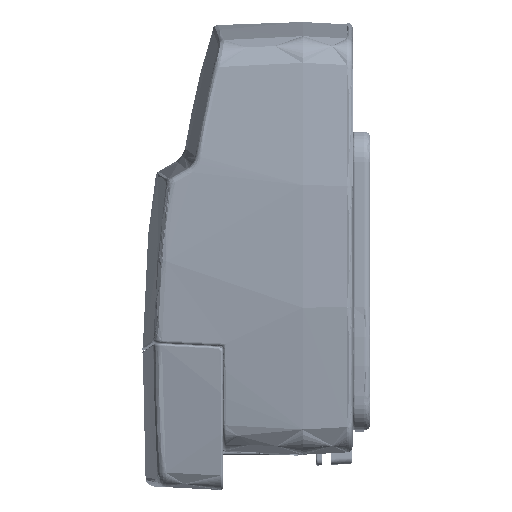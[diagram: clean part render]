
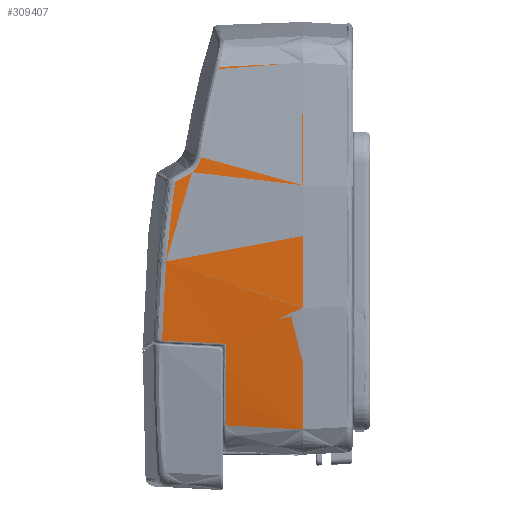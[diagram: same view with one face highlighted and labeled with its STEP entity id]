
A CAD part, left-side view. The second image highlights one B-rep face of the part: STEP entity #309407.
In plain terms, the highlighted conical face has half-angle 3 degrees and reference radius 207.307 mm.
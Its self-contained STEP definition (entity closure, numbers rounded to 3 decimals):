
#8200 = CARTESIAN_POINT ( 'NONE',  ( 58.773, 4.209, 39.133 ) ) ;
#11691 = ORIENTED_EDGE ( 'NONE', *, *, #128504, .T. ) ;
#12956 = CARTESIAN_POINT ( 'NONE',  ( 60.949, 17.161, -3.932 ) ) ;
#22583 = CARTESIAN_POINT ( 'NONE',  ( 60.923, 18.609, -2.507 ) ) ;
#34107 = EDGE_CURVE ( 'NONE', #182431, #72198, #79913, .T. ) ;
#35482 = CARTESIAN_POINT ( 'NONE',  ( 60.519, 0., -20.759 ) ) ;
#42749 = CARTESIAN_POINT ( 'NONE',  ( 60.928, 16.721, -5.016 ) ) ;
#46145 = CARTESIAN_POINT ( 'NONE',  ( 60.839, 20.93, -1.163 ) ) ;
#48586 = CARTESIAN_POINT ( 'NONE',  ( 58.958, 0., 39.359 ) ) ;
#48862 = VERTEX_POINT ( 'NONE', #74311 ) ;
#48944 = CARTESIAN_POINT ( 'NONE',  ( 60.181, 22.96, 20.472 ) ) ;
#55781 = VERTEX_POINT ( 'NONE', #160357 ) ;
#61848 = ORIENTED_EDGE ( 'NONE', *, *, #84595, .T. ) ;
#62193 = CARTESIAN_POINT ( 'NONE',  ( 58.588, 8.417, 38.908 ) ) ;
#62362 = AXIS2_PLACEMENT_3D ( 'NONE', #220143, #93523, #140796 ) ;
#70353 = CARTESIAN_POINT ( 'NONE',  ( 60.95, 17.496, -3.447 ) ) ;
#70480 = EDGE_CURVE ( 'NONE', #55781, #182431, #284575, .T. ) ;
#72198 = VERTEX_POINT ( 'NONE', #46145 ) ;
#72739 = ORIENTED_EDGE ( 'NONE', *, *, #277965, .T. ) ;
#73927 = CARTESIAN_POINT ( 'NONE',  ( 59.879, 13.644, -20.087 ) ) ;
#74311 = CARTESIAN_POINT ( 'NONE',  ( 59.74, 23.051, 24.771 ) ) ;
#74773 = CONICAL_SURFACE ( 'NONE', #152185, 207.307, 0.052 ) ;
#75418 = CARTESIAN_POINT ( 'NONE',  ( 60.914, 21.55, 3.154 ) ) ;
#79913 = B_SPLINE_CURVE_WITH_KNOTS ( 'NONE', 3,
 ( #22583, #257285, #256153, #336810 ),
 .UNSPECIFIED., .F., .F.,
 ( 4, 4 ),
 ( 0., 1. ),
 .UNSPECIFIED. ) ;
#82251 =( BOUNDED_CURVE ( )  B_SPLINE_CURVE ( 3, ( #153699, #48944, #109940, #127201, #75418, #340196 ),
 .UNSPECIFIED., .F., .F. ) 
 B_SPLINE_CURVE_WITH_KNOTS ( ( 4, 2, 4 ),
 ( 0., 0.498, 1. ),
 .UNSPECIFIED. ) 
 CURVE ( )  GEOMETRIC_REPRESENTATION_ITEM ( )  RATIONAL_B_SPLINE_CURVE ( ( 1., 1., 1., 1., 1., 1. ) ) 
 REPRESENTATION_ITEM ( '' )  );
#84595 = EDGE_CURVE ( 'NONE', #95647, #128469, #293246, .T. ) ;
#92163 = VERTEX_POINT ( 'NONE', #130936 ) ;
#92310 = CARTESIAN_POINT ( 'NONE',  ( 60.947, 17.688, -3.225 ) ) ;
#93523 = DIRECTION ( 'NONE',  ( 0., 1., 0. ) ) ;
#95647 = VERTEX_POINT ( 'NONE', #250456 ) ;
#95738 = CARTESIAN_POINT ( 'NONE',  ( -145.307, 0., 3.977 ) ) ;
#96784 = DIRECTION ( 'NONE',  ( -1., 0., 0. ) ) ;
#102405 = VERTEX_POINT ( 'NONE', #35482 ) ;
#108662 = CARTESIAN_POINT ( 'NONE',  ( 59.906, 19.576, 24.946 ) ) ;
#109940 = CARTESIAN_POINT ( 'NONE',  ( 60.493, 22.741, 16.158 ) ) ;
#110014 = CARTESIAN_POINT ( 'NONE',  ( 59.879, 13.644, -20.087 ) ) ;
#122167 = CARTESIAN_POINT ( 'NONE',  ( 60.936, 16.802, -4.732 ) ) ;
#127201 = CARTESIAN_POINT ( 'NONE',  ( 60.861, 22.036, 7.489 ) ) ;
#128469 = VERTEX_POINT ( 'NONE', #48586 ) ;
#128504 = EDGE_CURVE ( 'NONE', #102405, #159428, #150755, .T. ) ;
#130936 = CARTESIAN_POINT ( 'NONE',  ( 60.236, 12.626, 25.295 ) ) ;
#137609 = CARTESIAN_POINT ( 'NONE',  ( 60.39, 14.835, -15.187 ) ) ;
#140796 = DIRECTION ( 'NONE',  ( 0., 0., -1. ) ) ;
#150755 = B_SPLINE_CURVE_WITH_KNOTS ( 'NONE', 3,
 ( #231567, #230430, #337579, #73927 ),
 .UNSPECIFIED., .F., .F.,
 ( 4, 4 ),
 ( 0., 1. ),
 .UNSPECIFIED. ) ;
#152185 = AXIS2_PLACEMENT_3D ( 'NONE', #95738, #334065, #175105 ) ;
#153699 = CARTESIAN_POINT ( 'NONE',  ( 59.74, 23.051, 24.771 ) ) ;
#159428 = VERTEX_POINT ( 'NONE', #313495 ) ;
#160357 = CARTESIAN_POINT ( 'NONE',  ( 60.917, 16.673, -5.308 ) ) ;
#161257 = B_SPLINE_CURVE_WITH_KNOTS ( 'NONE', 3,
 ( #318258, #108662, #266288, #212236 ),
 .UNSPECIFIED., .F., .F.,
 ( 4, 4 ),
 ( 0., 1. ),
 .UNSPECIFIED. ) ;
#164004 = CARTESIAN_POINT ( 'NONE',  ( 60.738, 15.845, -10.257 ) ) ;
#171646 = CARTESIAN_POINT ( 'NONE',  ( 60.932, 18.355, -2.654 ) ) ;
#173845 = DIRECTION ( 'NONE',  ( 0., -1., 0. ) ) ;
#173910 = CARTESIAN_POINT ( 'NONE',  ( 60.947, 17.023, -4.188 ) ) ;
#175105 = DIRECTION ( 'NONE',  ( 0., 0., -1. ) ) ;
#182431 = VERTEX_POINT ( 'NONE', #315886 ) ;
#183293 = EDGE_CURVE ( 'NONE', #159428, #55781, #280326, .T. ) ;
#198084 = CARTESIAN_POINT ( 'NONE',  ( 60.938, 18.12, -2.827 ) ) ;
#207596 = CIRCLE ( 'NONE', #62362, 207.307 ) ;
#212236 = CARTESIAN_POINT ( 'NONE',  ( 60.236, 12.626, 25.295 ) ) ;
#220143 = CARTESIAN_POINT ( 'NONE',  ( -145.307, 0., 3.977 ) ) ;
#222034 = ORIENTED_EDGE ( 'NONE', *, *, #183293, .T. ) ;
#222514 = ORIENTED_EDGE ( 'NONE', *, *, #34107, .T. ) ;
#230430 = CARTESIAN_POINT ( 'NONE',  ( 60.306, 4.548, -20.535 ) ) ;
#231567 = CARTESIAN_POINT ( 'NONE',  ( 60.519, 0., -20.759 ) ) ;
#237853 = CARTESIAN_POINT ( 'NONE',  ( 60.917, 16.673, -5.308 ) ) ;
#246409 = EDGE_CURVE ( 'NONE', #128469, #102405, #207596, .T. ) ;
#250456 = CARTESIAN_POINT ( 'NONE',  ( 58.403, 12.626, 38.684 ) ) ;
#253426 = EDGE_CURVE ( 'NONE', #48862, #72198, #82251, .T. ) ;
#256153 = CARTESIAN_POINT ( 'NONE',  ( 60.868, 20.156, -1.611 ) ) ;
#257285 = CARTESIAN_POINT ( 'NONE',  ( 60.896, 19.383, -2.059 ) ) ;
#265647 = ORIENTED_EDGE ( 'NONE', *, *, #253426, .F. ) ;
#266288 = CARTESIAN_POINT ( 'NONE',  ( 60.071, 16.101, 25.12 ) ) ;
#268210 = CARTESIAN_POINT ( 'NONE',  ( 58.958, 0., 39.359 ) ) ;
#268257 = EDGE_CURVE ( 'NONE', #48862, #92163, #161257, .T. ) ;
#268686 = AXIS2_PLACEMENT_3D ( 'NONE', #283185, #173845, #96784 ) ;
#276401 = CARTESIAN_POINT ( 'NONE',  ( 60.923, 18.609, -2.507 ) ) ;
#277007 = ORIENTED_EDGE ( 'NONE', *, *, #70480, .T. ) ;
#277523 = CARTESIAN_POINT ( 'NONE',  ( 60.917, 16.673, -5.308 ) ) ;
#277965 = EDGE_CURVE ( 'NONE', #92163, #95647, #326639, .T. ) ;
#280326 = B_SPLINE_CURVE_WITH_KNOTS ( 'NONE', 3,
 ( #110014, #137609, #164004, #237853 ),
 .UNSPECIFIED., .F., .F.,
 ( 4, 4 ),
 ( 0., 1. ),
 .UNSPECIFIED. ) ;
#283185 = CARTESIAN_POINT ( 'NONE',  ( -145.307, 12.626, 3.977 ) ) ;
#284575 = B_SPLINE_CURVE_WITH_KNOTS ( 'NONE', 3,
 ( #277523, #42749, #122167, #173910, #12956, #70353, #92310, #198084, #171646, #276401 ),
 .UNSPECIFIED., .F., .F.,
 ( 4, 2, 2, 2, 4 ),
 ( 0., 0.25, 0.5, 0.75, 1. ),
 .UNSPECIFIED. ) ;
#293246 = B_SPLINE_CURVE_WITH_KNOTS ( 'NONE', 3,
 ( #321312, #62193, #8200, #268210 ),
 .UNSPECIFIED., .F., .F.,
 ( 4, 4 ),
 ( 0., 1. ),
 .UNSPECIFIED. ) ;
#309407 = ADVANCED_FACE ( 'NONE', ( #325800 ), #74773, .T. ) ;
#313495 = CARTESIAN_POINT ( 'NONE',  ( 59.879, 13.644, -20.087 ) ) ;
#315886 = CARTESIAN_POINT ( 'NONE',  ( 60.923, 18.609, -2.507 ) ) ;
#318258 = CARTESIAN_POINT ( 'NONE',  ( 59.74, 23.051, 24.771 ) ) ;
#321312 = CARTESIAN_POINT ( 'NONE',  ( 58.403, 12.626, 38.684 ) ) ;
#322818 = ORIENTED_EDGE ( 'NONE', *, *, #268257, .T. ) ;
#322904 = ORIENTED_EDGE ( 'NONE', *, *, #246409, .T. ) ;
#325800 = FACE_OUTER_BOUND ( 'NONE', #341334, .T. ) ;
#326639 = CIRCLE ( 'NONE', #268686, 206.645 ) ;
#334065 = DIRECTION ( 'NONE',  ( 0., -1., 0. ) ) ;
#336810 = CARTESIAN_POINT ( 'NONE',  ( 60.839, 20.93, -1.163 ) ) ;
#337579 = CARTESIAN_POINT ( 'NONE',  ( 60.092, 9.096, -20.31 ) ) ;
#340196 = CARTESIAN_POINT ( 'NONE',  ( 60.839, 20.93, -1.163 ) ) ;
#341334 = EDGE_LOOP ( 'NONE', ( #11691, #222034, #277007, #222514, #265647, #322818, #72739, #61848, #322904 ) ) ;
